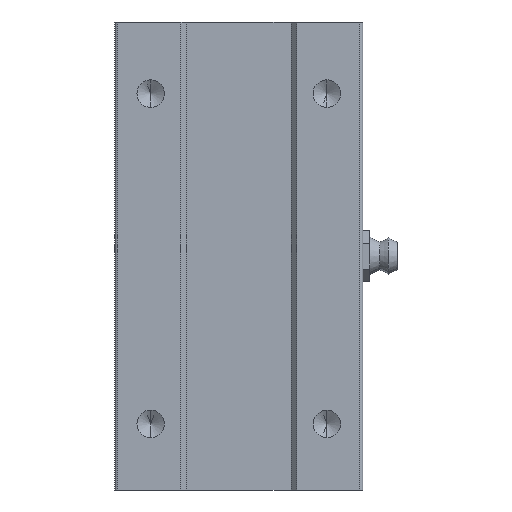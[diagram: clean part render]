
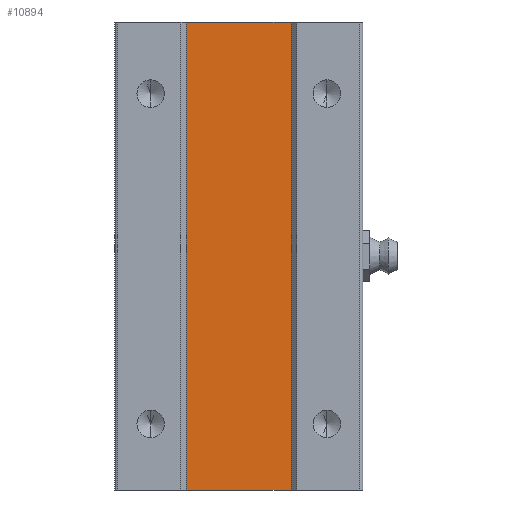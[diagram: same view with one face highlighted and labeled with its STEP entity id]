
A CAD part, front view. The second image highlights one B-rep face of the part: STEP entity #10894.
In plain terms, the highlighted planar face has unit normal (0, -1, 0).
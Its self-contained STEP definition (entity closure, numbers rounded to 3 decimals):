
#490 = VERTEX_POINT ( 'NONE', #12224 ) ;
#1445 = DIRECTION ( 'NONE',  ( -1., 0., 0. ) ) ;
#2045 = CARTESIAN_POINT ( 'NONE',  ( 9.5, -17.13, 85. ) ) ;
#2586 = DIRECTION ( 'NONE',  ( 1., 0., 0. ) ) ;
#3921 = CARTESIAN_POINT ( 'NONE',  ( 9.5, -17.13, 85. ) ) ;
#4437 = VERTEX_POINT ( 'NONE', #9701 ) ;
#4613 = VECTOR ( 'NONE', #21912, 1000. ) ;
#4815 = ORIENTED_EDGE ( 'NONE', *, *, #5560, .T. ) ;
#5055 = AXIS2_PLACEMENT_3D ( 'NONE', #6985, #12556, #1445 ) ;
#5192 = LINE ( 'NONE', #8536, #4613 ) ;
#5347 = DIRECTION ( 'NONE',  ( 0., 0., -1. ) ) ;
#5560 = EDGE_CURVE ( 'NONE', #13246, #490, #6942, .T. ) ;
#5898 = DIRECTION ( 'NONE',  ( 0., 0., -1. ) ) ;
#6363 = VECTOR ( 'NONE', #2586, 1000. ) ;
#6625 = EDGE_LOOP ( 'NONE', ( #4815, #21212, #23581, #21130 ) ) ;
#6942 = LINE ( 'NONE', #22909, #6363 ) ;
#6985 = CARTESIAN_POINT ( 'NONE',  ( -9.5, -17.13, 85. ) ) ;
#7610 = FACE_OUTER_BOUND ( 'NONE', #6625, .T. ) ;
#8536 = CARTESIAN_POINT ( 'NONE',  ( -9.5, -17.13, 85. ) ) ;
#9701 = CARTESIAN_POINT ( 'NONE',  ( -9.5, -17.13, 85. ) ) ;
#9839 = LINE ( 'NONE', #3921, #19127 ) ;
#10894 = ADVANCED_FACE ( 'NONE', ( #7610 ), #18085, .F. ) ;
#12224 = CARTESIAN_POINT ( 'NONE',  ( 9.5, -17.13, 0. ) ) ;
#12556 = DIRECTION ( 'NONE',  ( 0., 1., 0. ) ) ;
#13068 = LINE ( 'NONE', #16437, #22904 ) ;
#13246 = VERTEX_POINT ( 'NONE', #23834 ) ;
#16437 = CARTESIAN_POINT ( 'NONE',  ( -9.5, -17.13, 85. ) ) ;
#16781 = EDGE_CURVE ( 'NONE', #4437, #19603, #5192, .T. ) ;
#16922 = EDGE_CURVE ( 'NONE', #19603, #490, #9839, .T. ) ;
#18085 = PLANE ( 'NONE',  #5055 ) ;
#19127 = VECTOR ( 'NONE', #5898, 1000. ) ;
#19603 = VERTEX_POINT ( 'NONE', #2045 ) ;
#19971 = EDGE_CURVE ( 'NONE', #4437, #13246, #13068, .T. ) ;
#21130 = ORIENTED_EDGE ( 'NONE', *, *, #19971, .T. ) ;
#21212 = ORIENTED_EDGE ( 'NONE', *, *, #16922, .F. ) ;
#21912 = DIRECTION ( 'NONE',  ( 1., 0., 0. ) ) ;
#22904 = VECTOR ( 'NONE', #5347, 1000. ) ;
#22909 = CARTESIAN_POINT ( 'NONE',  ( -9.5, -17.13, 0. ) ) ;
#23581 = ORIENTED_EDGE ( 'NONE', *, *, #16781, .F. ) ;
#23834 = CARTESIAN_POINT ( 'NONE',  ( -9.5, -17.13, 0. ) ) ;
